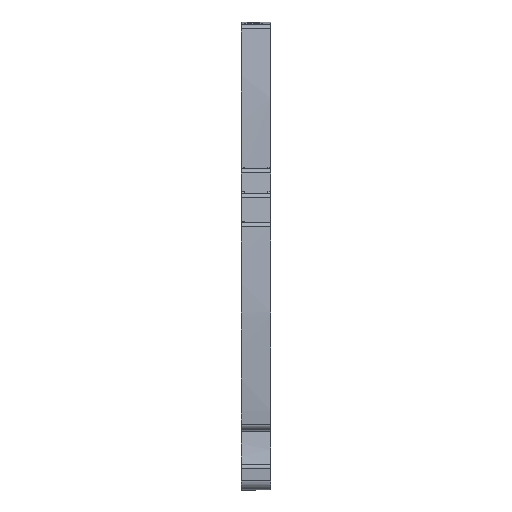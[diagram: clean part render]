
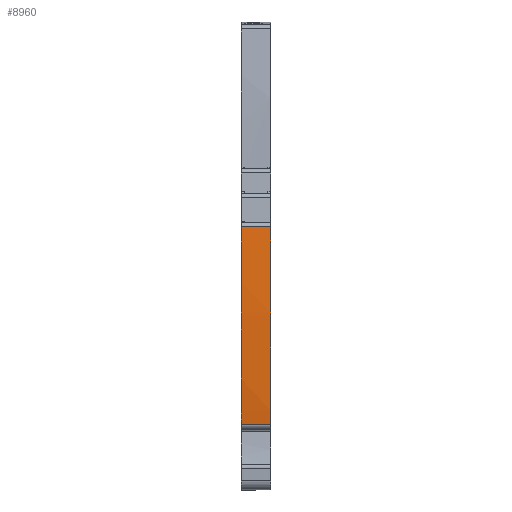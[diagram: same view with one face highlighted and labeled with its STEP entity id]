
A CAD part, front view. The second image highlights one B-rep face of the part: STEP entity #8960.
In plain terms, the highlighted cylindrical face has radius 202 mm (diameter 404 mm), a partial arc.
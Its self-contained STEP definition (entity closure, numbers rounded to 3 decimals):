
#8913=AXIS2_PLACEMENT_3D('Cylinder Axis2P3D',#8910,#8911,#8912) ;
#8917=AXIS2_PLACEMENT_3D('Circle Axis2P3D',#8915,#8916,$) ;
#8926=AXIS2_PLACEMENT_3D('Circle Axis2P3D',#8924,#8925,$) ;
#8933=AXIS2_PLACEMENT_3D('Circle Axis2P3D',#8931,#8932,$) ;
#8945=AXIS2_PLACEMENT_3D('Circle Axis2P3D',#8943,#8944,$) ;
#1552=CARTESIAN_POINT('Vertex',(6.,0.609,53.828)) ;
#1556=CARTESIAN_POINT('Control Point',(6.,0.609,53.828)) ;
#1557=CARTESIAN_POINT('Control Point',(6.,0.339,50.36)) ;
#1558=CARTESIAN_POINT('Control Point',(6.,0.144,46.887)) ;
#1559=CARTESIAN_POINT('Control Point',(6.,0.024,43.406)) ;
#1560=CARTESIAN_POINT('Control Point',(6.,-0.022,39.928)) ;
#1561=CARTESIAN_POINT('Control Point',(6.,0.007,36.45)) ;
#1562=CARTESIAN_POINT('Vertex',(6.,0.007,36.45)) ;
#1566=CARTESIAN_POINT('Control Point',(6.,0.007,36.45)) ;
#1567=CARTESIAN_POINT('Control Point',(6.,0.009,36.29)) ;
#1568=CARTESIAN_POINT('Control Point',(6.,0.01,36.13)) ;
#1569=CARTESIAN_POINT('Control Point',(6.,0.012,35.97)) ;
#1570=CARTESIAN_POINT('Control Point',(6.,0.013,35.81)) ;
#1571=CARTESIAN_POINT('Control Point',(6.,0.015,35.65)) ;
#1572=CARTESIAN_POINT('Vertex',(6.,0.015,35.65)) ;
#1576=CARTESIAN_POINT('Control Point',(6.,0.015,35.65)) ;
#1577=CARTESIAN_POINT('Control Point',(6.,0.064,31.762)) ;
#1578=CARTESIAN_POINT('Control Point',(6.,0.205,27.875)) ;
#1579=CARTESIAN_POINT('Control Point',(6.,0.441,23.992)) ;
#1580=CARTESIAN_POINT('Control Point',(6.,0.769,20.116)) ;
#1581=CARTESIAN_POINT('Control Point',(6.,1.191,16.25)) ;
#1582=CARTESIAN_POINT('Vertex',(6.,1.191,16.25)) ;
#1586=CARTESIAN_POINT('Control Point',(6.,1.191,16.25)) ;
#1587=CARTESIAN_POINT('Control Point',(6.,1.254,15.665)) ;
#1588=CARTESIAN_POINT('Control Point',(6.,1.32,15.08)) ;
#1589=CARTESIAN_POINT('Control Point',(6.,1.388,14.496)) ;
#1590=CARTESIAN_POINT('Control Point',(6.,1.459,13.911)) ;
#1591=CARTESIAN_POINT('Control Point',(6.,1.531,13.327)) ;
#1592=CARTESIAN_POINT('Vertex',(6.,1.531,13.327)) ;
#8894=CARTESIAN_POINT('Vertex',(0.,0.609,53.828)) ;
#8897=CARTESIAN_POINT('Line Origine',(2.39,0.609,53.828)) ;
#8910=CARTESIAN_POINT('Axis2P3D Location',(2.55,202.,38.15)) ;
#8915=CARTESIAN_POINT('Axis2P3D Location',(0.,202.,38.15)) ;
#8919=CARTESIAN_POINT('Vertex',(0.,0.007,36.45)) ;
#8921=CARTESIAN_POINT('Vertex',(0.,0.015,35.65)) ;
#8924=CARTESIAN_POINT('Axis2P3D Location',(0.,202.,38.15)) ;
#8928=CARTESIAN_POINT('Vertex',(0.,1.191,16.25)) ;
#8931=CARTESIAN_POINT('Axis2P3D Location',(0.,202.,38.15)) ;
#8935=CARTESIAN_POINT('Vertex',(0.,1.531,13.327)) ;
#8938=CARTESIAN_POINT('Line Origine',(2.55,1.531,13.327)) ;
#8943=CARTESIAN_POINT('Axis2P3D Location',(0.,202.,38.15)) ;
#8898=DIRECTION('Vector Direction',(1.,0.,0.)) ;
#8911=DIRECTION('Axis2P3D Direction',(1.,0.,0.)) ;
#8912=DIRECTION('Axis2P3D XDirection',(0.,-0.997,0.078)) ;
#8916=DIRECTION('Axis2P3D Direction',(1.,0.,0.)) ;
#8925=DIRECTION('Axis2P3D Direction',(1.,0.,0.)) ;
#8932=DIRECTION('Axis2P3D Direction',(1.,0.,0.)) ;
#8939=DIRECTION('Vector Direction',(1.,0.,0.)) ;
#8944=DIRECTION('Axis2P3D Direction',(1.,0.,0.)) ;
#8899=VECTOR('Line Direction',#8898,1.) ;
#8940=VECTOR('Line Direction',#8939,1.) ;
#8949=ORIENTED_EDGE('',*,*,#8923,.T.) ;
#8950=ORIENTED_EDGE('',*,*,#8930,.T.) ;
#8951=ORIENTED_EDGE('',*,*,#8937,.T.) ;
#8952=ORIENTED_EDGE('',*,*,#8942,.F.) ;
#8953=ORIENTED_EDGE('',*,*,#1594,.F.) ;
#8954=ORIENTED_EDGE('',*,*,#1584,.F.) ;
#8955=ORIENTED_EDGE('',*,*,#1574,.F.) ;
#8956=ORIENTED_EDGE('',*,*,#1564,.F.) ;
#8957=ORIENTED_EDGE('',*,*,#8901,.T.) ;
#8958=ORIENTED_EDGE('',*,*,#8947,.T.) ;
#8960=ADVANCED_FACE('KLEMME',(#8959),#8914,.T.) ;
#1555=B_SPLINE_CURVE_WITH_KNOTS('',5,(#1556,#1557,#1558,#1559,#1560,#1561),.UNSPECIFIED.,.F.,.U.,(6,6),(0.,24.596),.UNSPECIFIED.) ;
#1565=B_SPLINE_CURVE_WITH_KNOTS('',5,(#1566,#1567,#1568,#1569,#1570,#1571),.UNSPECIFIED.,.F.,.U.,(6,6),(0.,1.131),.UNSPECIFIED.) ;
#1575=B_SPLINE_CURVE_WITH_KNOTS('',5,(#1576,#1577,#1578,#1579,#1580,#1581),.UNSPECIFIED.,.F.,.U.,(6,6),(0.,27.499),.UNSPECIFIED.) ;
#1585=B_SPLINE_CURVE_WITH_KNOTS('',5,(#1586,#1587,#1588,#1589,#1590,#1591),.UNSPECIFIED.,.F.,.U.,(6,6),(0.,4.162),.UNSPECIFIED.) ;
#8918=CIRCLE('generated circle',#8917,202.) ;
#8927=CIRCLE('generated circle',#8926,202.) ;
#8934=CIRCLE('generated circle',#8933,202.) ;
#8946=CIRCLE('generated circle',#8945,202.) ;
#8914=CYLINDRICAL_SURFACE('generated cylinder',#8913,202.) ;
#1564=EDGE_CURVE('',#1553,#1563,#1555,.T.) ;
#1574=EDGE_CURVE('',#1563,#1573,#1565,.T.) ;
#1584=EDGE_CURVE('',#1573,#1583,#1575,.T.) ;
#1594=EDGE_CURVE('',#1583,#1593,#1585,.T.) ;
#8901=EDGE_CURVE('',#1553,#8895,#8900,.F.) ;
#8923=EDGE_CURVE('',#8920,#8922,#8918,.T.) ;
#8930=EDGE_CURVE('',#8922,#8929,#8927,.T.) ;
#8937=EDGE_CURVE('',#8929,#8936,#8934,.T.) ;
#8942=EDGE_CURVE('',#1593,#8936,#8941,.F.) ;
#8947=EDGE_CURVE('',#8895,#8920,#8946,.T.) ;
#8948=EDGE_LOOP('',(#8949,#8950,#8951,#8952,#8953,#8954,#8955,#8956,#8957,#8958)) ;
#8959=FACE_OUTER_BOUND('',#8948,.T.) ;
#8900=LINE('Line',#8897,#8899) ;
#8941=LINE('Line',#8938,#8940) ;
#1553=VERTEX_POINT('',#1552) ;
#1563=VERTEX_POINT('',#1562) ;
#1573=VERTEX_POINT('',#1572) ;
#1583=VERTEX_POINT('',#1582) ;
#1593=VERTEX_POINT('',#1592) ;
#8895=VERTEX_POINT('',#8894) ;
#8920=VERTEX_POINT('',#8919) ;
#8922=VERTEX_POINT('',#8921) ;
#8929=VERTEX_POINT('',#8928) ;
#8936=VERTEX_POINT('',#8935) ;
